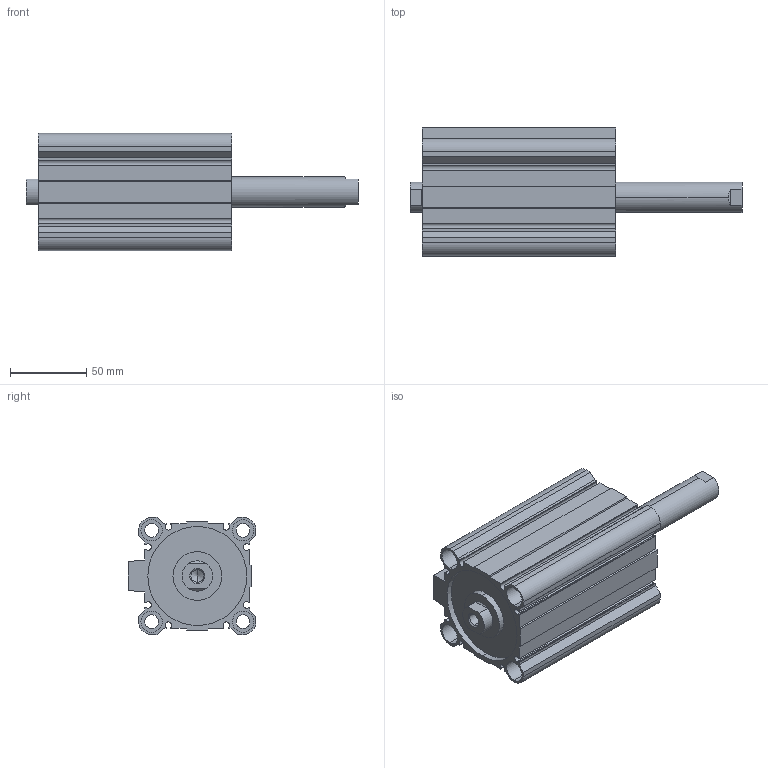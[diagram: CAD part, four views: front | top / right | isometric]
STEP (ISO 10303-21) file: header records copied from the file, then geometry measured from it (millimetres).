
FILE_DESCRIPTION (( 'STEP AP203' ), '1' );
FILE_NAME ('CCMB63-75F-P.STEP', '2020-08-05T11:48:10', ( '' ), ( '' ), 'SwSTEP 2.0', 'SolidWorks 2019', '' );
FILE_SCHEMA (( 'CONFIG_CONTROL_DESIGN' ));
Length unit declared in the file: millimetre
Products named in the file (1): CCMB63-75F-P
Bounding box: 218 x 84 x 77 mm (x, y, z)
Volume: 416719.9 mm3; surface area: 131692.4 mm2
Topology: 2 solids, 2 shells, 176 faces, 450 edges, 294 vertices
Faces by surface type: plane 90, cylinder 74, cone 12
Entity records: 5421 total; most frequent: DIRECTION 948, CARTESIAN_POINT 941, ORIENTED_EDGE 892, EDGE_CURVE 446, AXIS2_PLACEMENT_3D 333, VERTEX_POINT 294, VECTOR 282, LINE 282
